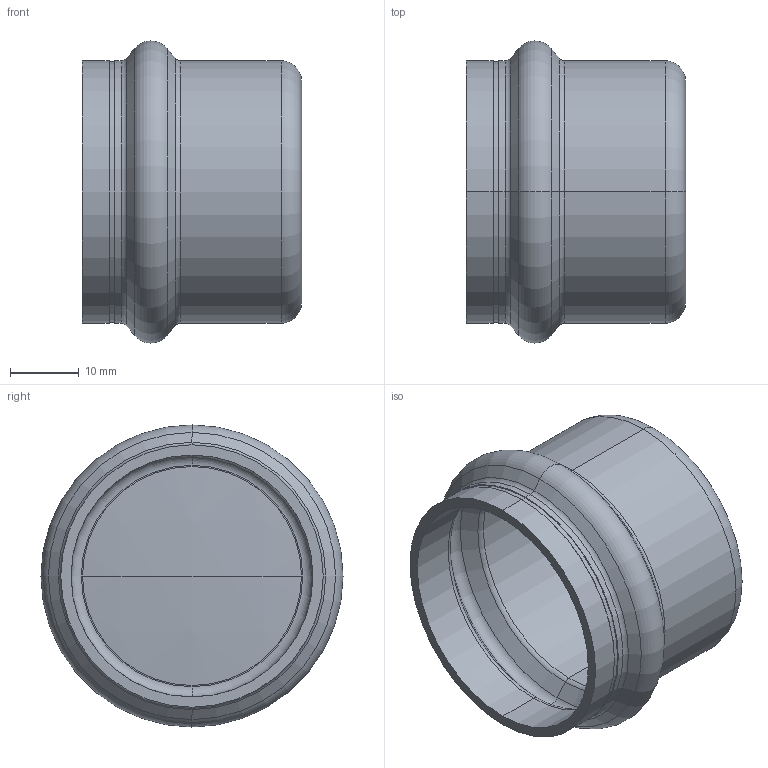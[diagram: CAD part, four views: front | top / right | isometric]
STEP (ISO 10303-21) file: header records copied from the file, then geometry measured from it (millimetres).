
FILE_DESCRIPTION (( 'STEP AP203' ), '1' );
FILE_NAME ('SP5301 35.STEP', '2017-04-24T09:28:16', ( '' ), ( '' ), 'SwSTEP 2.0', 'SolidWorks 2016', '' );
FILE_SCHEMA (( 'CONFIG_CONTROL_DESIGN' ));
Length unit declared in the file: millimetre
Products named in the file (1): SP5301 35
Bounding box: 32 x 44.1 x 44.1 mm (x, y, z)
Volume: 7411.7 mm3; surface area: 10080.9 mm2
Topology: 1 solids, 1 shells, 50 faces, 102 edges, 58 vertices
Faces by surface type: torus 20, cylinder 14, cone 8, sphere 4, plane 4
Entity records: 1403 total; most frequent: DIRECTION 284, CARTESIAN_POINT 211, ORIENTED_EDGE 204, AXIS2_PLACEMENT_3D 131, EDGE_CURVE 102, CIRCLE 80, VERTEX_POINT 58, EDGE_LOOP 54
